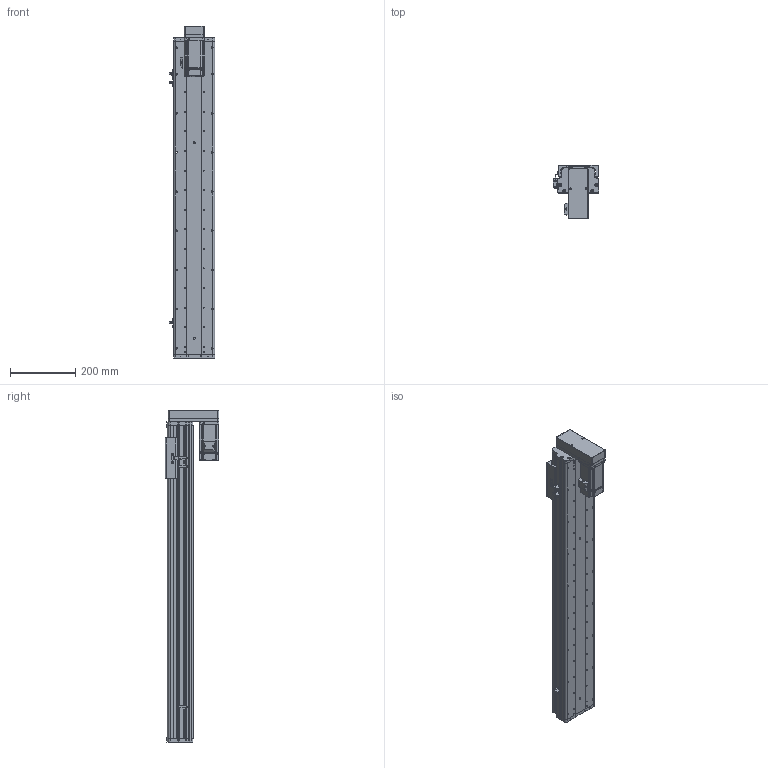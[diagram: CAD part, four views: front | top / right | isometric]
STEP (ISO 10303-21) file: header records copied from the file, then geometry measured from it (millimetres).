
FILE_DESCRIPTION (( 'STEP AP214' ), '1' );
FILE_NAME ('KSD125S-S750-MD-CM.STEP', '2017-10-21T08:11:46', ( '微软用户' ), ( '微软中国' ), 'SwSTEP 2.0', 'SolidWorks 2014', '' );
FILE_SCHEMA (( 'AUTOMOTIVE_DESIGN' ));
Length unit declared in the file: millimetre
Products named in the file (16): KSD125S-S750-MD-CM; 125宽马达安装板连板上下折丝杆同步带; 125遵悵誘欶奻狟殏; HTPA30S3M150_A_H6_a佪裝蚚; HTPA30S3M150_A_H6_a萇儂蚚; KSD125S-750俴最佪裝滅鳥裔; KSD125S-750俴最佪裝菁啣; MHMD042G1CA_2_03; 拸萇儂釱滅袉菜; 拸萇儂釱滅袉菜-1; 覜茼え68遵圉猾敕; U倰嫖萇假蚾璃; U倰嫖萇EEㄜSX672; ヶ傷啣-125遵耀郪; KSD125-賑雄釱1; 125-帣傷啣1
Assembly tree (19 placements, depth 2):
  KSD125S-S750-MD-CM
    125-帣傷啣1
    KSD125-賑雄釱1
    ヶ傷啣-125遵耀郪
    U倰嫖萇EEㄜSX672  x3
    U倰嫖萇假蚾璃  x3
    覜茼え68遵圉猾敕
    拸萇儂釱滅袉菜-1
    拸萇儂釱滅袉菜
    MHMD042G1CA_2_03
    KSD125S-750俴最佪裝菁啣
    KSD125S-750俴最佪裝滅鳥裔
    HTPA30S3M150_A_H6_a萇儂蚚
    HTPA30S3M150_A_H6_a佪裝蚚
    125遵悵誘欶奻狟殏
    125宽马达安装板连板上下折丝杆同步带
Bounding box: 138.7 x 165 x 1017.5 mm (x, y, z)
Volume: 3280182.2 mm3; surface area: 1116592.5 mm2
Topology: 18 solids, 21 shells, 2233 faces, 6477 edges, 4273 vertices
Faces by surface type: cylinder 1406, plane 686, cone 119, bspline 22
Entity records: 80165 total; most frequent: CARTESIAN_POINT 16027, DIRECTION 12315, ORIENTED_EDGE 11462, EDGE_CURVE 5809, AXIS2_PLACEMENT_3D 4767, VERTEX_POINT 3865, VECTOR 2781, LINE 2781
